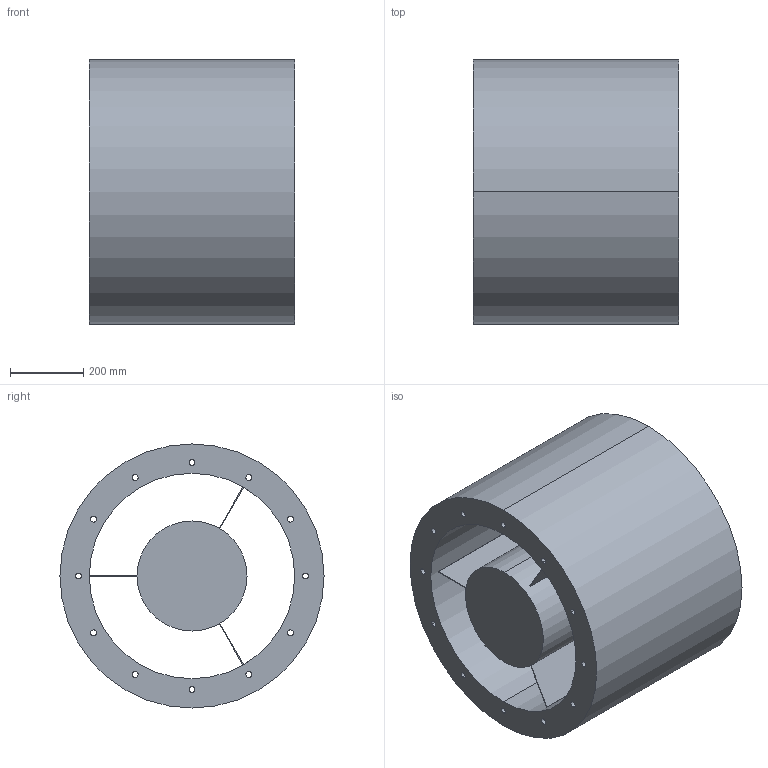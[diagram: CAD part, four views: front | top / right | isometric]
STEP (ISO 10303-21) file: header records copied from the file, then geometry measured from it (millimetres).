
FILE_DESCRIPTION(('STEP AP214'),'1');
FILE_NAME('accessory_5211814200.stp','2017-10-09T11:37:48',('TraceParts'),('TraceParts S.A.'),'Spatial InterOp 3D',' ',' ');
FILE_SCHEMA(('automotive_design'));
Length unit declared in the file: millimetre
Products named in the file (1): accessory_5211814200
Bounding box: 560 x 720 x 720 mm (x, y, z)
Volume: 122916045.8 mm3; surface area: 3750004.7 mm2
Topology: 1 solids, 1 shells, 48 faces, 131 edges, 87 vertices
Faces by surface type: cylinder 30, plane 16, torus 2
Entity records: 2024 total; most frequent: DIRECTION 306, CARTESIAN_POINT 267, ORIENTED_EDGE 262, EDGE_CURVE 131, AXIS2_PLACEMENT_3D 126, VERTEX_POINT 87, EDGE_LOOP 80, CIRCLE 77
